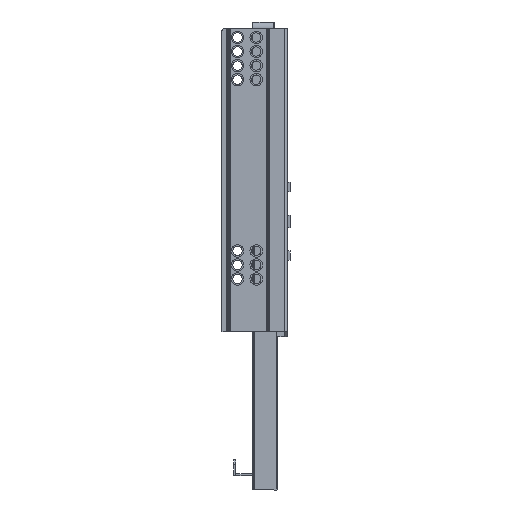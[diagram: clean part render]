
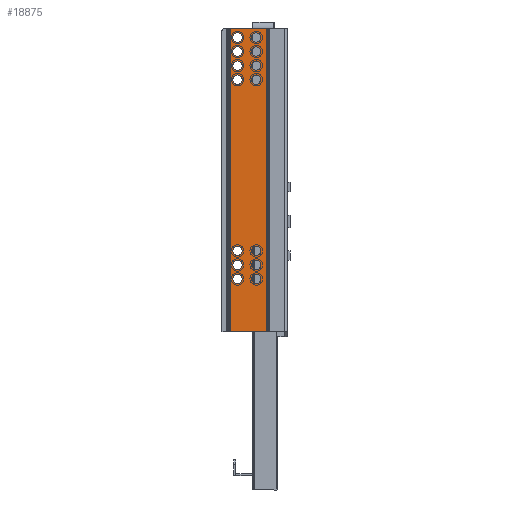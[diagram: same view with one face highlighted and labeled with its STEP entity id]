
A CAD part, left-side view. The second image highlights one B-rep face of the part: STEP entity #18875.
In plain terms, the highlighted planar face has unit normal (-1, 0, 0).
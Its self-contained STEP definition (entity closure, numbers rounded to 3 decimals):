
#652=FACE_BOUND('',#3809,.T.);
#653=FACE_BOUND('',#3810,.T.);
#654=FACE_BOUND('',#3811,.T.);
#655=FACE_BOUND('',#3812,.T.);
#656=FACE_BOUND('',#3813,.T.);
#657=FACE_BOUND('',#3814,.T.);
#658=FACE_BOUND('',#3815,.T.);
#659=FACE_BOUND('',#3816,.T.);
#660=FACE_BOUND('',#3817,.T.);
#661=FACE_BOUND('',#3818,.T.);
#662=FACE_BOUND('',#3819,.T.);
#663=FACE_BOUND('',#3820,.T.);
#664=FACE_BOUND('',#3821,.T.);
#665=FACE_BOUND('',#3822,.T.);
#1333=CIRCLE('',#20054,3.);
#1336=CIRCLE('',#20059,3.);
#1339=CIRCLE('',#20064,3.);
#1342=CIRCLE('',#20069,3.);
#1345=CIRCLE('',#20074,3.);
#1348=CIRCLE('',#20079,3.);
#1351=CIRCLE('',#20084,3.);
#1354=CIRCLE('',#20089,3.);
#1357=CIRCLE('',#20094,3.);
#1360=CIRCLE('',#20099,3.);
#1363=CIRCLE('',#20104,3.);
#1366=CIRCLE('',#20109,3.);
#1369=CIRCLE('',#20114,3.);
#1372=CIRCLE('',#20119,3.);
#2623=FACE_OUTER_BOUND('',#3808,.T.);
#3808=EDGE_LOOP('',(#12268,#12269,#12270,#12271));
#3809=EDGE_LOOP('',(#12272));
#3810=EDGE_LOOP('',(#12273));
#3811=EDGE_LOOP('',(#12274));
#3812=EDGE_LOOP('',(#12275));
#3813=EDGE_LOOP('',(#12276));
#3814=EDGE_LOOP('',(#12277));
#3815=EDGE_LOOP('',(#12278));
#3816=EDGE_LOOP('',(#12279));
#3817=EDGE_LOOP('',(#12280));
#3818=EDGE_LOOP('',(#12281));
#3819=EDGE_LOOP('',(#12282));
#3820=EDGE_LOOP('',(#12283));
#3821=EDGE_LOOP('',(#12284));
#3822=EDGE_LOOP('',(#12285));
#5146=LINE('',#28466,#6418);
#5207=LINE('',#28759,#6479);
#5218=LINE('',#28792,#6490);
#5222=LINE('',#28800,#6494);
#6418=VECTOR('',#22447,23.586);
#6479=VECTOR('',#22754,195.);
#6490=VECTOR('',#22785,23.586);
#6494=VECTOR('',#22797,195.);
#7680=VERTEX_POINT('',#28463);
#7681=VERTEX_POINT('',#28465);
#7731=VERTEX_POINT('',#28591);
#7734=VERTEX_POINT('',#28599);
#7737=VERTEX_POINT('',#28607);
#7740=VERTEX_POINT('',#28615);
#7743=VERTEX_POINT('',#28623);
#7746=VERTEX_POINT('',#28631);
#7749=VERTEX_POINT('',#28639);
#7752=VERTEX_POINT('',#28647);
#7755=VERTEX_POINT('',#28655);
#7758=VERTEX_POINT('',#28663);
#7761=VERTEX_POINT('',#28671);
#7764=VERTEX_POINT('',#28679);
#7767=VERTEX_POINT('',#28687);
#7770=VERTEX_POINT('',#28695);
#7790=VERTEX_POINT('',#28758);
#7802=VERTEX_POINT('',#28791);
#9314=EDGE_CURVE('',#7681,#7680,#5146,.T.);
#9377=EDGE_CURVE('',#7731,#7731,#1333,.T.);
#9380=EDGE_CURVE('',#7734,#7734,#1336,.T.);
#9383=EDGE_CURVE('',#7737,#7737,#1339,.T.);
#9386=EDGE_CURVE('',#7740,#7740,#1342,.T.);
#9389=EDGE_CURVE('',#7743,#7743,#1345,.T.);
#9392=EDGE_CURVE('',#7746,#7746,#1348,.T.);
#9395=EDGE_CURVE('',#7749,#7749,#1351,.T.);
#9398=EDGE_CURVE('',#7752,#7752,#1354,.T.);
#9401=EDGE_CURVE('',#7755,#7755,#1357,.T.);
#9404=EDGE_CURVE('',#7758,#7758,#1360,.T.);
#9407=EDGE_CURVE('',#7761,#7761,#1363,.T.);
#9410=EDGE_CURVE('',#7764,#7764,#1366,.T.);
#9413=EDGE_CURVE('',#7767,#7767,#1369,.T.);
#9416=EDGE_CURVE('',#7770,#7770,#1372,.T.);
#9448=EDGE_CURVE('',#7681,#7790,#5207,.T.);
#9465=EDGE_CURVE('',#7790,#7802,#5218,.T.);
#9470=EDGE_CURVE('',#7802,#7680,#5222,.T.);
#12268=ORIENTED_EDGE('',*,*,#9314,.T.);
#12269=ORIENTED_EDGE('',*,*,#9470,.F.);
#12270=ORIENTED_EDGE('',*,*,#9465,.F.);
#12271=ORIENTED_EDGE('',*,*,#9448,.F.);
#12272=ORIENTED_EDGE('',*,*,#9377,.T.);
#12273=ORIENTED_EDGE('',*,*,#9380,.T.);
#12274=ORIENTED_EDGE('',*,*,#9383,.T.);
#12275=ORIENTED_EDGE('',*,*,#9386,.T.);
#12276=ORIENTED_EDGE('',*,*,#9389,.T.);
#12277=ORIENTED_EDGE('',*,*,#9392,.T.);
#12278=ORIENTED_EDGE('',*,*,#9395,.T.);
#12279=ORIENTED_EDGE('',*,*,#9398,.T.);
#12280=ORIENTED_EDGE('',*,*,#9401,.T.);
#12281=ORIENTED_EDGE('',*,*,#9404,.T.);
#12282=ORIENTED_EDGE('',*,*,#9407,.T.);
#12283=ORIENTED_EDGE('',*,*,#9410,.T.);
#12284=ORIENTED_EDGE('',*,*,#9413,.T.);
#12285=ORIENTED_EDGE('',*,*,#9416,.T.);
#17318=PLANE('',#20156);
#18875=ADVANCED_FACE('',(#2623,#652,#653,#654,#655,#656,#657,#658,#659,
#660,#661,#662,#663,#664,#665),#17318,.T.);
#20054=AXIS2_PLACEMENT_3D('',#28592,#22558,#22559);
#20059=AXIS2_PLACEMENT_3D('',#28600,#22568,#22569);
#20064=AXIS2_PLACEMENT_3D('',#28608,#22578,#22579);
#20069=AXIS2_PLACEMENT_3D('',#28616,#22588,#22589);
#20074=AXIS2_PLACEMENT_3D('',#28624,#22598,#22599);
#20079=AXIS2_PLACEMENT_3D('',#28632,#22608,#22609);
#20084=AXIS2_PLACEMENT_3D('',#28640,#22618,#22619);
#20089=AXIS2_PLACEMENT_3D('',#28648,#22628,#22629);
#20094=AXIS2_PLACEMENT_3D('',#28656,#22638,#22639);
#20099=AXIS2_PLACEMENT_3D('',#28664,#22648,#22649);
#20104=AXIS2_PLACEMENT_3D('',#28672,#22658,#22659);
#20109=AXIS2_PLACEMENT_3D('',#28680,#22668,#22669);
#20114=AXIS2_PLACEMENT_3D('',#28688,#22678,#22679);
#20119=AXIS2_PLACEMENT_3D('',#28696,#22688,#22689);
#20156=AXIS2_PLACEMENT_3D('',#28801,#22798,#22799);
#22447=DIRECTION('',(0.,-1.,0.));
#22558=DIRECTION('center_axis',(1.,0.,0.));
#22559=DIRECTION('ref_axis',(0.,0.,-1.));
#22568=DIRECTION('center_axis',(1.,0.,0.));
#22569=DIRECTION('ref_axis',(0.,0.,-1.));
#22578=DIRECTION('center_axis',(1.,0.,0.));
#22579=DIRECTION('ref_axis',(0.,0.,-1.));
#22588=DIRECTION('center_axis',(1.,0.,0.));
#22589=DIRECTION('ref_axis',(0.,0.,-1.));
#22598=DIRECTION('center_axis',(1.,0.,0.));
#22599=DIRECTION('ref_axis',(0.,0.,-1.));
#22608=DIRECTION('center_axis',(1.,0.,0.));
#22609=DIRECTION('ref_axis',(0.,0.,-1.));
#22618=DIRECTION('center_axis',(1.,0.,0.));
#22619=DIRECTION('ref_axis',(0.,0.,-1.));
#22628=DIRECTION('center_axis',(1.,0.,0.));
#22629=DIRECTION('ref_axis',(0.,0.,-1.));
#22638=DIRECTION('center_axis',(1.,0.,0.));
#22639=DIRECTION('ref_axis',(0.,0.,-1.));
#22648=DIRECTION('center_axis',(1.,0.,0.));
#22649=DIRECTION('ref_axis',(0.,0.,-1.));
#22658=DIRECTION('center_axis',(1.,0.,0.));
#22659=DIRECTION('ref_axis',(0.,0.,-1.));
#22668=DIRECTION('center_axis',(1.,0.,0.));
#22669=DIRECTION('ref_axis',(0.,0.,-1.));
#22678=DIRECTION('center_axis',(1.,0.,0.));
#22679=DIRECTION('ref_axis',(0.,0.,-1.));
#22688=DIRECTION('center_axis',(1.,0.,0.));
#22689=DIRECTION('ref_axis',(0.,0.,-1.));
#22754=DIRECTION('',(0.,0.,1.));
#22785=DIRECTION('',(0.,-1.,0.));
#22797=DIRECTION('',(0.,0.,-1.));
#22798=DIRECTION('center_axis',(-1.,0.,0.));
#22799=DIRECTION('ref_axis',(0.,1.,0.));
#28463=CARTESIAN_POINT('',(1.,13.207,-195.));
#28465=CARTESIAN_POINT('',(1.,36.793,-195.));
#28466=CARTESIAN_POINT('',(1.,14.,-195.));
#28591=CARTESIAN_POINT('',(1.,32.,-158.));
#28592=CARTESIAN_POINT('Origin',(1.,32.,-161.));
#28599=CARTESIAN_POINT('',(1.,32.,-149.));
#28600=CARTESIAN_POINT('Origin',(1.,32.,-152.));
#28607=CARTESIAN_POINT('',(1.,32.,-140.));
#28608=CARTESIAN_POINT('Origin',(1.,32.,-143.));
#28615=CARTESIAN_POINT('',(1.,20.,-140.));
#28616=CARTESIAN_POINT('Origin',(1.,20.,-143.));
#28623=CARTESIAN_POINT('',(1.,20.,-149.));
#28624=CARTESIAN_POINT('Origin',(1.,20.,-152.));
#28631=CARTESIAN_POINT('',(1.,20.,-158.));
#28632=CARTESIAN_POINT('Origin',(1.,20.,-161.));
#28639=CARTESIAN_POINT('',(1.,32.,-30.));
#28640=CARTESIAN_POINT('Origin',(1.,32.,-33.));
#28647=CARTESIAN_POINT('',(1.,32.,-21.));
#28648=CARTESIAN_POINT('Origin',(1.,32.,-24.));
#28655=CARTESIAN_POINT('',(1.,32.,-12.));
#28656=CARTESIAN_POINT('Origin',(1.,32.,-15.));
#28663=CARTESIAN_POINT('',(1.,32.,-3.));
#28664=CARTESIAN_POINT('Origin',(1.,32.,-6.));
#28671=CARTESIAN_POINT('',(1.,20.,-3.));
#28672=CARTESIAN_POINT('Origin',(1.,20.,-6.));
#28679=CARTESIAN_POINT('',(1.,20.,-12.));
#28680=CARTESIAN_POINT('Origin',(1.,20.,-15.));
#28687=CARTESIAN_POINT('',(1.,20.,-21.));
#28688=CARTESIAN_POINT('Origin',(1.,20.,-24.));
#28695=CARTESIAN_POINT('',(1.,20.,-30.));
#28696=CARTESIAN_POINT('Origin',(1.,20.,-33.));
#28758=CARTESIAN_POINT('',(1.,36.793,0.));
#28759=CARTESIAN_POINT('',(1.,36.793,0.));
#28791=CARTESIAN_POINT('',(1.,13.207,0.));
#28792=CARTESIAN_POINT('',(1.,37.,0.));
#28800=CARTESIAN_POINT('',(1.,13.207,0.));
#28801=CARTESIAN_POINT('Origin',(1.,13.,0.));
